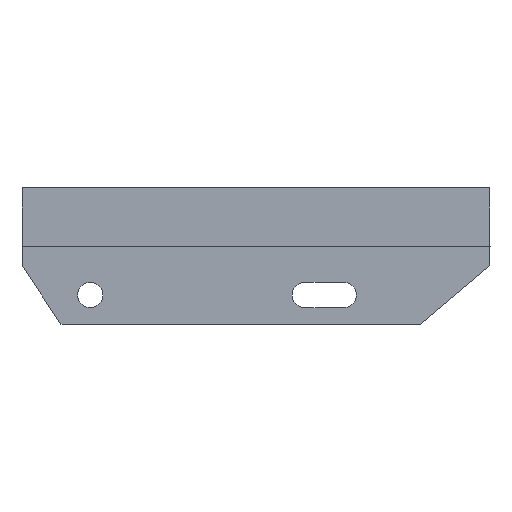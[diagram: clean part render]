
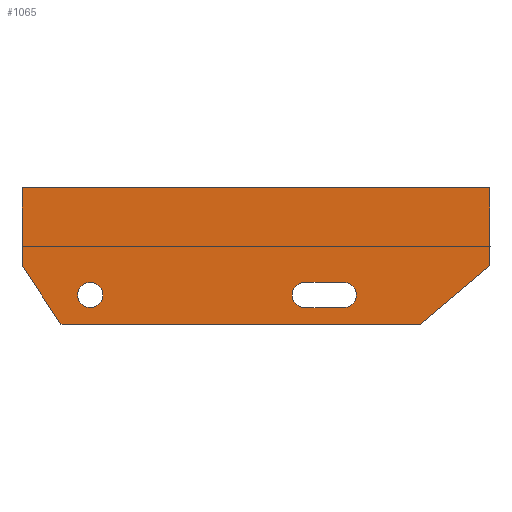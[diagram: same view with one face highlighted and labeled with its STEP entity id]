
A CAD part, front view. The second image highlights one B-rep face of the part: STEP entity #1065.
In plain terms, the highlighted planar face has unit normal (0, -1, 0).
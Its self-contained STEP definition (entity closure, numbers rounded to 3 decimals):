
#697=CIRCLE('',#1018,6.5);
#698=CIRCLE('',#1019,6.5);
#699=CIRCLE('',#1020,6.5);
#737=ORIENTED_EDGE('',*,*,#905,.T.);
#738=ORIENTED_EDGE('',*,*,#906,.T.);
#739=ORIENTED_EDGE('',*,*,#907,.F.);
#740=ORIENTED_EDGE('',*,*,#903,.F.);
#741=ORIENTED_EDGE('',*,*,#891,.F.);
#742=ORIENTED_EDGE('',*,*,#908,.T.);
#743=ORIENTED_EDGE('',*,*,#909,.F.);
#744=ORIENTED_EDGE('',*,*,#910,.T.);
#745=ORIENTED_EDGE('',*,*,#911,.T.);
#746=ORIENTED_EDGE('',*,*,#912,.T.);
#747=ORIENTED_EDGE('',*,*,#913,.T.);
#846=VERTEX_POINT('',#1309);
#847=VERTEX_POINT('',#1311);
#857=VERTEX_POINT('',#1335);
#858=VERTEX_POINT('',#1339);
#859=VERTEX_POINT('',#1340);
#860=VERTEX_POINT('',#1342);
#861=VERTEX_POINT('',#1346);
#862=VERTEX_POINT('',#1348);
#863=VERTEX_POINT('',#1349);
#864=VERTEX_POINT('',#1351);
#865=VERTEX_POINT('',#1353);
#891=EDGE_CURVE('',#846,#847,#1425,.T.);
#903=EDGE_CURVE('',#847,#857,#1434,.T.);
#905=EDGE_CURVE('',#858,#859,#1436,.T.);
#906=EDGE_CURVE('',#859,#860,#1437,.T.);
#907=EDGE_CURVE('',#857,#860,#1438,.T.);
#908=EDGE_CURVE('',#846,#858,#1439,.T.);
#909=EDGE_CURVE('',#861,#861,#697,.T.);
#910=EDGE_CURVE('',#862,#863,#698,.T.);
#911=EDGE_CURVE('',#863,#864,#1440,.T.);
#912=EDGE_CURVE('',#864,#865,#699,.T.);
#913=EDGE_CURVE('',#865,#862,#1441,.T.);
#947=EDGE_LOOP('',(#737,#738,#739,#740,#741,#742));
#948=EDGE_LOOP('',(#743));
#949=EDGE_LOOP('',(#744,#745,#746,#747));
#981=FACE_BOUND('',#947,.T.);
#982=FACE_BOUND('',#948,.T.);
#983=FACE_BOUND('',#949,.T.);
#1017=AXIS2_PLACEMENT_3D('',#1338,#1133,#1134);
#1018=AXIS2_PLACEMENT_3D('',#1347,#1139,#1140);
#1019=AXIS2_PLACEMENT_3D('',#1350,#1141,#1142);
#1020=AXIS2_PLACEMENT_3D('',#1354,#1144,#1145);
#1047=PLANE('',#1017);
#1065=ADVANCED_FACE('',(#981,#982,#983),#1047,.T.);
#1112=DIRECTION('',(0.,0.,40.));
#1131=DIRECTION('',(240.,0.,0.));
#1133=DIRECTION('',(0.,-1.,0.));
#1134=DIRECTION('',(-1.,0.,0.));
#1135=DIRECTION('',(184.247,0.,0.));
#1136=DIRECTION('',(35.753,0.,30.));
#1137=DIRECTION('',(0.,0.,-40.));
#1138=DIRECTION('',(20.,0.,-30.));
#1139=DIRECTION('',(0.,-1.,0.));
#1140=DIRECTION('',(0.,0.,-6.5));
#1141=DIRECTION('',(0.,1.,0.));
#1142=DIRECTION('',(0.,0.,-6.5));
#1143=DIRECTION('',(20.,0.,0.));
#1144=DIRECTION('',(0.,1.,0.));
#1145=DIRECTION('',(0.,0.,-6.5));
#1146=DIRECTION('',(-20.,0.,0.));
#1229=VECTOR('',#1112,1.);
#1238=VECTOR('',#1131,1.);
#1240=VECTOR('',#1135,1.);
#1241=VECTOR('',#1136,1.);
#1242=VECTOR('',#1137,1.);
#1243=VECTOR('',#1138,1.);
#1244=VECTOR('',#1143,1.);
#1245=VECTOR('',#1146,1.);
#1309=CARTESIAN_POINT('',(-3.,0.,-10.));
#1311=CARTESIAN_POINT('',(-3.,0.,30.));
#1312=CARTESIAN_POINT('',(-3.,0.,-10.));
#1335=CARTESIAN_POINT('',(237.,0.,30.));
#1336=CARTESIAN_POINT('',(-3.,0.,30.));
#1338=CARTESIAN_POINT('',(17.,0.,-40.));
#1339=CARTESIAN_POINT('',(17.,0.,-40.));
#1340=CARTESIAN_POINT('',(201.247,0.,-40.));
#1341=CARTESIAN_POINT('',(17.,0.,-40.));
#1342=CARTESIAN_POINT('',(237.,0.,-10.));
#1343=CARTESIAN_POINT('',(201.247,0.,-40.));
#1344=CARTESIAN_POINT('',(237.,0.,30.));
#1345=CARTESIAN_POINT('',(-3.,0.,-10.));
#1346=CARTESIAN_POINT('',(32.,0.,-31.5));
#1347=CARTESIAN_POINT('',(32.,0.,-25.));
#1348=CARTESIAN_POINT('',(142.,0.,-31.5));
#1349=CARTESIAN_POINT('',(142.,0.,-18.5));
#1350=CARTESIAN_POINT('',(142.,0.,-25.));
#1351=CARTESIAN_POINT('',(162.,0.,-18.5));
#1352=CARTESIAN_POINT('',(142.,0.,-18.5));
#1353=CARTESIAN_POINT('',(162.,0.,-31.5));
#1354=CARTESIAN_POINT('',(162.,0.,-25.));
#1355=CARTESIAN_POINT('',(162.,0.,-31.5));
#1425=LINE('',#1312,#1229);
#1434=LINE('',#1336,#1238);
#1436=LINE('',#1341,#1240);
#1437=LINE('',#1343,#1241);
#1438=LINE('',#1344,#1242);
#1439=LINE('',#1345,#1243);
#1440=LINE('',#1352,#1244);
#1441=LINE('',#1355,#1245);
